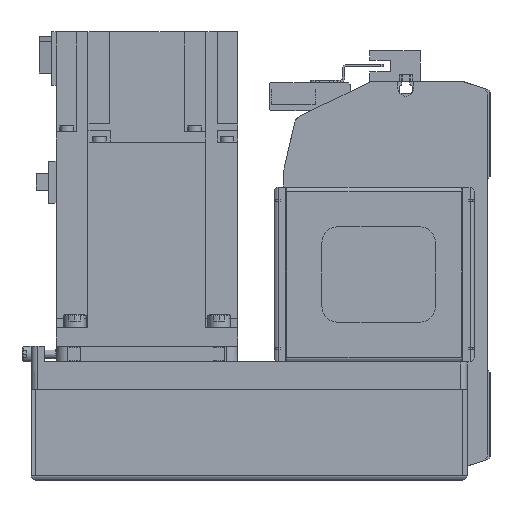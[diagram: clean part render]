
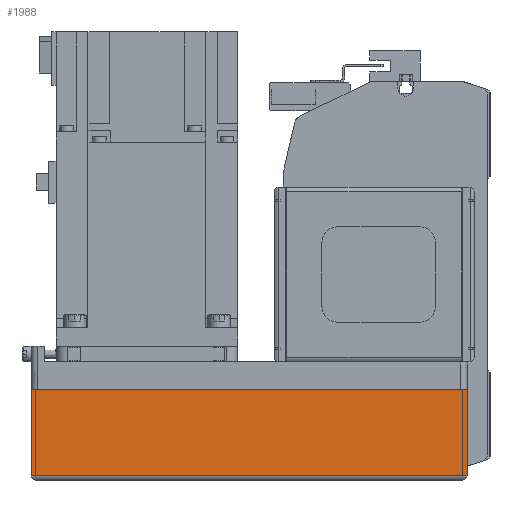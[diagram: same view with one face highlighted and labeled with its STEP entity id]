
A CAD part, left-side view. The second image highlights one B-rep face of the part: STEP entity #1988.
In plain terms, the highlighted planar face has unit normal (-1, 0, 0) as drawn and (0, -1, 0) by its records, which use the part's own axes.
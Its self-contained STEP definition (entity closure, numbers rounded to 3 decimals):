
#1988 = ADVANCED_FACE( '', ( #4701 ), #4702, .T. );
#4701 = FACE_OUTER_BOUND( '', #8257, .T. );
#4702 = PLANE( '', #8258 );
#8257 = EDGE_LOOP( '', ( #13859, #13860, #13861, #13862 ) );
#8258 = AXIS2_PLACEMENT_3D( '', #13863, #13864, #13865 );
#13859 = ORIENTED_EDGE( '', *, *, #21914, .F. );
#13860 = ORIENTED_EDGE( '', *, *, #21915, .F. );
#13861 = ORIENTED_EDGE( '', *, *, #21916, .T. );
#13862 = ORIENTED_EDGE( '', *, *, #21772, .T. );
#13863 = CARTESIAN_POINT( '', ( -192., -40., -12.1 ) );
#13864 = DIRECTION( '', ( 0., -1., 0. ) );
#13865 = DIRECTION( '', ( 0., 0., -1. ) );
#21772 = EDGE_CURVE( '', #26417, #26670, #26672, .T. );
#21914 = EDGE_CURVE( '', #26883, #26670, #26884, .T. );
#21915 = EDGE_CURVE( '', #26885, #26883, #26886, .T. );
#21916 = EDGE_CURVE( '', #26885, #26417, #26887, .T. );
#26417 = VERTEX_POINT( '', #33156 );
#26670 = VERTEX_POINT( '', #33504 );
#26672 = LINE( '', #33506, #33507 );
#26883 = VERTEX_POINT( '', #33793 );
#26884 = LINE( '', #33794, #33795 );
#26885 = VERTEX_POINT( '', #33796 );
#26886 = LINE( '', #33797, #33798 );
#26887 = LINE( '', #33799, #33800 );
#33156 = CARTESIAN_POINT( '', ( -192., -40., -50. ) );
#33504 = CARTESIAN_POINT( '', ( 0., -40., -50. ) );
#33506 = CARTESIAN_POINT( '', ( -192., -40., -50. ) );
#33507 = VECTOR( '', #39813, 1000. );
#33793 = CARTESIAN_POINT( '', ( 0., -40., -12.1 ) );
#33794 = CARTESIAN_POINT( '', ( 0., -40., -12.1 ) );
#33795 = VECTOR( '', #39992, 1000. );
#33796 = CARTESIAN_POINT( '', ( -192., -40., -12.1 ) );
#33797 = CARTESIAN_POINT( '', ( -192., -40., -12.1 ) );
#33798 = VECTOR( '', #39993, 1000. );
#33799 = CARTESIAN_POINT( '', ( -192., -40., -12.1 ) );
#33800 = VECTOR( '', #39994, 1000. );
#39813 = DIRECTION( '', ( 1., 0., 0. ) );
#39992 = DIRECTION( '', ( 0., 0., -1. ) );
#39993 = DIRECTION( '', ( 1., 0., 0. ) );
#39994 = DIRECTION( '', ( 0., 0., -1. ) );
